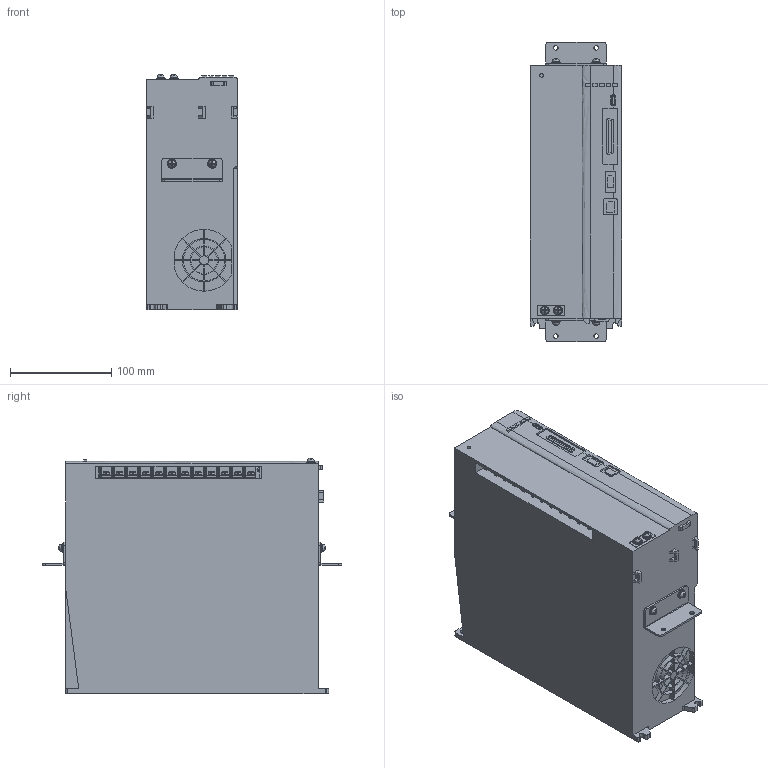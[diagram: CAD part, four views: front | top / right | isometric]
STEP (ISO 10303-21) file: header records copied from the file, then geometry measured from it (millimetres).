
FILE_DESCRIPTION((''),'2;1');
FILE_NAME('ASM0001_ASM','2024-04-01T',('whp'),(''),'CREO PARAMETRIC BY PTC INC, 2018360','CREO PARAMETRIC BY PTC INC, 2018360','');
FILE_SCHEMA(('AUTOMOTIVE_DESIGN { 1 0 10303 214 1 1 1 1 }'));
Products named in the file (23): MSBR-22; MSBR-21; MSBR-20; MSBR-19; MSBR-18; MSBR-17; MSBR-16; MSBR-15; MSBR-14; MSBR-13; MSBR-12; MSBR-11; MSBR-10; MSBR-9; MSBR-8; MSBR-7; MSBR-6; MSBR-5; MSBR-4; MSBR-3; MSBR-2; MSBR-1; ASM0001_ASM
Assembly tree (22 placements, depth 2):
  ASM0001_ASM
    MSBR-22
    MSBR-21
    MSBR-20
    MSBR-19
    MSBR-18
    MSBR-17
    MSBR-16
    MSBR-15
    MSBR-14
    MSBR-13
    MSBR-12
    MSBR-11
    MSBR-10
    MSBR-9
    MSBR-8
    MSBR-7
    MSBR-6
    MSBR-5
    MSBR-4
    MSBR-3
    MSBR-2
    MSBR-1
Bounding box: 90 x 296 x 233.03 mm (x, y, z)
Volume: 5081063.2 mm3; surface area: 259720.5 mm2
Topology: 22 solids, 22 shells, 2076 faces, 5790 edges, 3882 vertices
Faces by surface type: plane 1368, cylinder 614, torus 30, bspline 24, cone 24, extrusion 10, sphere 6
Entity records: 83155 total; most frequent: CARTESIAN_POINT 14319, ORIENTED_EDGE 11580, DIRECTION 11162, EDGE_CURVE 5790, VERTEX_POINT 3882, VECTOR 3840, LINE 3830, AXIS2_PLACEMENT_3D 3661
